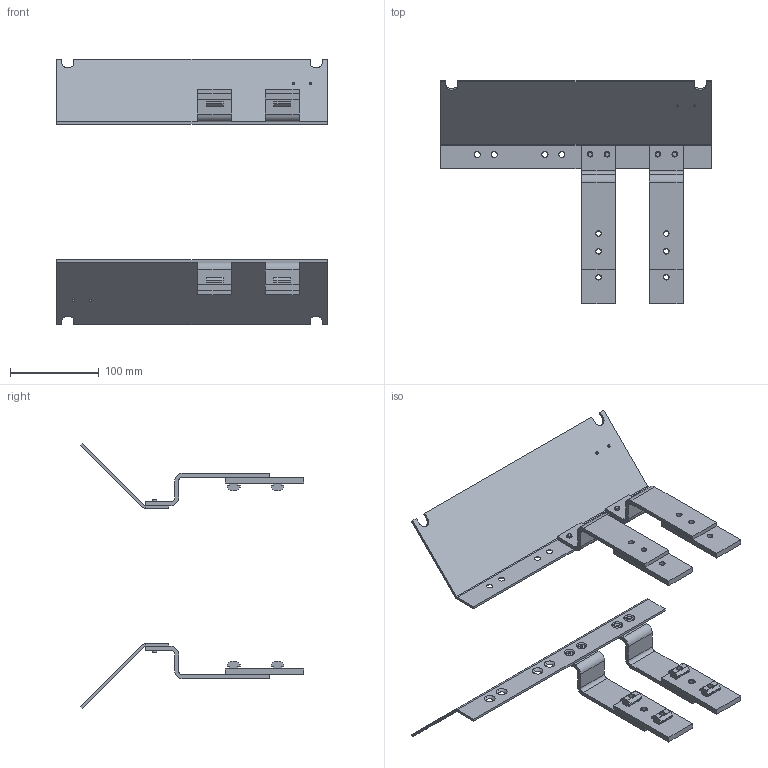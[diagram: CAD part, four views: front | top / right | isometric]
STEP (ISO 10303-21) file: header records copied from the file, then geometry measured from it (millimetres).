
FILE_DESCRIPTION((''),'2;1');
FILE_NAME('38M501_ASM','2017-10-23T',('james.horst'),(''),'PRO/ENGINEER BY PARAMETRIC TECHNOLOGY CORPORATION, 2012420','PRO/ENGINEER BY PARAMETRIC TECHNOLOGY CORPORATION, 2012420','');
FILE_SCHEMA(('CONFIG_CONTROL_DESIGN'));
Length unit declared in the file: inch
Products named in the file (8): 301029M; 301279; 301273; 639971M; 930508M; 301285_ASM_ASM; 301286_ASM_ASM; 38M501_ASM
Assembly tree (13 placements, depth 4):
  38M501_ASM
    301286_ASM_ASM
      301029M  x2
      301285_ASM_ASM  x4
        301279
        301273
        639971M
        930508M
Bounding box: 304.8 x 251.15 x 298.42 mm (x, y, z)
Volume: 411732.5 mm3; surface area: 264823.3 mm2
Topology: 26 solids, 50 shells, 640 faces, 1664 edges, 1096 vertices
Faces by surface type: plane 296, cylinder 264, cone 80
Entity records: 4770 total; most frequent: DIRECTION 862, CARTESIAN_POINT 855, ORIENTED_EDGE 700, EDGE_CURVE 362, AXIS2_PLACEMENT_3D 327, VERTEX_POINT 238, VECTOR 208, LINE 208
